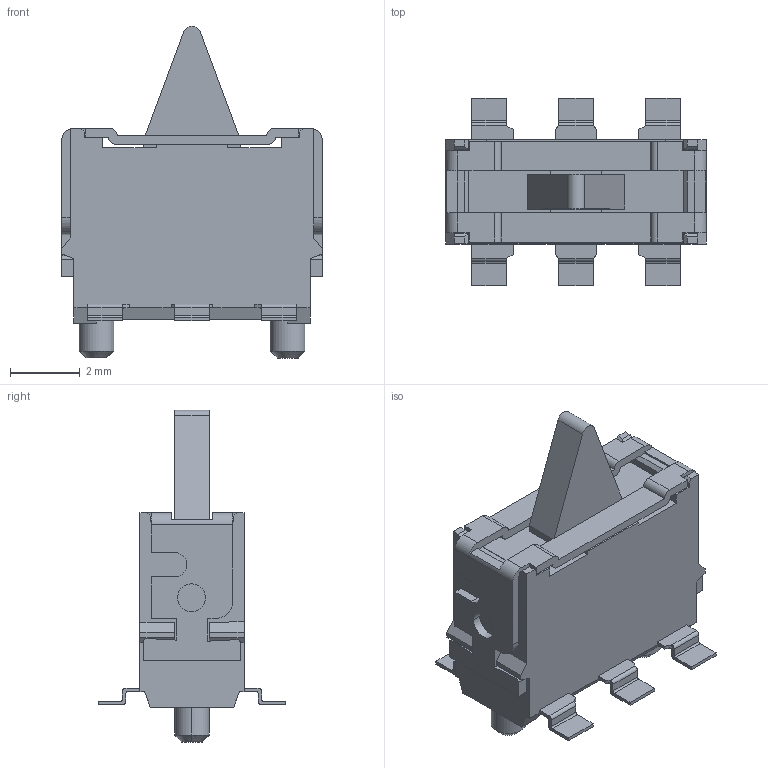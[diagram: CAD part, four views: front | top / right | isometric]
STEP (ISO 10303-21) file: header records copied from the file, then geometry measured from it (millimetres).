
FILE_DESCRIPTION (( 'STEP AP203' ), '1' );
FILE_NAME ('ese24mv1t.STEP', '2014-02-18T09:21:16', ( '' ), ( '' ), 'SwSTEP 2.0', 'SolidWorks 2012', '' );
FILE_SCHEMA (( 'CONFIG_CONTROL_DESIGN' ));
Length unit declared in the file: millimetre
Products named in the file (1): ese24mv1t
Bounding box: 7.5 x 5.4 x 9.55 mm (x, y, z)
Volume: 119.5 mm3; surface area: 223.5 mm2
Topology: 1 solids, 1 shells, 284 faces, 823 edges, 535 vertices
Faces by surface type: plane 227, cylinder 53, cone 4
Entity records: 9301 total; most frequent: CARTESIAN_POINT 1682, ORIENTED_EDGE 1646, DIRECTION 1488, EDGE_CURVE 823, LINE 702, VECTOR 702, VERTEX_POINT 535, AXIS2_PLACEMENT_3D 393
